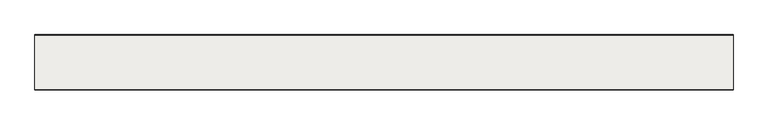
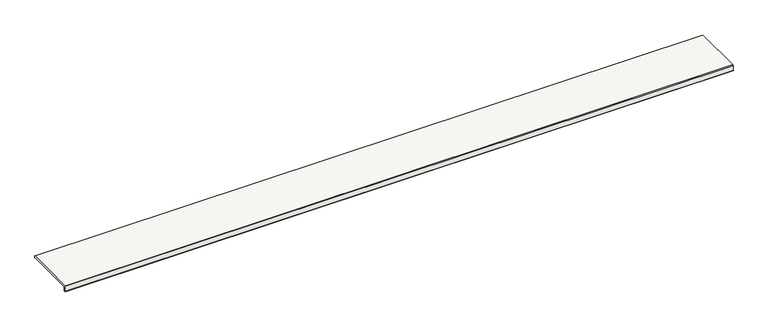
"""IFC4 building model written with IfcOpenShell, lengths in millimetres: slab geometry, ROSA GRES_L62 : Pieza L62_Pietro_White_Anti-Slip."""

from ifc_helpers import new_model, si_unit, point, frame, frame_2d, origin, place, context, project, spatial, polyline, circle_curve, trimmed, segment, composite_curve, outline, extrude, source, transform, mapped, element, save


def slab_8a27c395(model_context):
    return source(origin(), model_context, "Body", "SweptSolid", [
        extrude(outline(composite_curve([segment(polyline([(12.1001991, -37.0), (9.4054777, -37.0)]), True, "CONTINUOUS"), segment(trimmed(circle_curve(frame_2d((7.4142134, -37.0)), 1.9912643), [point((9.4054777, -37.0))], [point((5.422949, -37.0))], True, "CARTESIAN"), True, "CONTINUOUS"), segment(polyline([(5.422949, -37.0), (2.5, -37.0)]), True, "CONTINUOUS"), segment(trimmed(circle_curve(frame_2d((2.5, -34.5)), 2.5), [point((2.5, -37.0))], [point((0.0, -34.5))], False, "CARTESIAN"), True, "CONTINUOUS"), segment(polyline([(0.0, -34.5), (0.0, -2.5), (2.5, 0.0), (315.5, 0.0), (317.0, -2.5), (317.0, -12.4648352)]), True, "CONTINUOUS"), segment(trimmed(circle_curve(frame_2d((315.5234432, -12.4648352)), 1.4765568), [point((317.0, -12.4648352))], [point((315.5234432, -13.9413919))], False, "CARTESIAN"), True, "CONTINUOUS"), segment(polyline([(315.5234432, -13.9413919), (16.6422322, -13.9413919)]), True, "CONTINUOUS"), segment(trimmed(circle_curve(frame_2d((16.6422322, -16.5836242)), 2.6422322), [point((16.6422322, -13.9413919))], [point((14.0, -16.5836242))], True, "CARTESIAN"), True, "CONTINUOUS"), segment(polyline([(14.0, -16.5836242), (14.0, -35.1001991)]), True, "CONTINUOUS"), segment(trimmed(circle_curve(frame_2d((12.1001991, -35.1001991)), 1.8998009), [point((14.0, -35.1001991))], [point((12.1001991, -37.0))], False, "CARTESIAN"), True, "CONTINUOUS")], self_intersect=False)), frame((0.0, 0.0, 0.0), z_axis=(1.0, 0.0, 0.0), x_axis=(0.0, 1.0, 0.0)), (0.0, 0.0, 1.0), 4002.5),
    ])


if __name__ == "__main__":
    model = new_model("IFC4")
    model_context = context("Model", 3, world=origin())
    ifc_project = project(units=[si_unit("LENGTHUNIT", "METRE", prefix="MILLI")], contexts=[model_context])
    site = spatial("IfcSite", under=ifc_project)
    building = spatial("IfcBuilding", under=site)
    placement = place(None, origin())
    slab_shape = slab_8a27c395(model_context)
    element("IfcSlab", 1, ObjectType="ROSA GRES_L62 : Pieza L62_Pietro_White_Anti-Slip", at=placement, inside=building, context=model_context, shape_type="MappedRepresentation", body=[
        mapped(slab_shape, transform((0.0, 0.0, 0.0), x_axis=(1.0, 0.0, 0.0), y_axis=(0.0, 1.0, 0.0), z_axis=(0.0, 0.0, 1.0))),
    ])
    save(model, "model.ifc")
